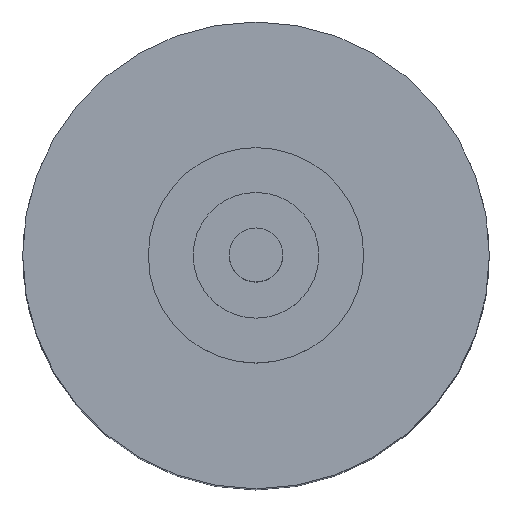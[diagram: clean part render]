
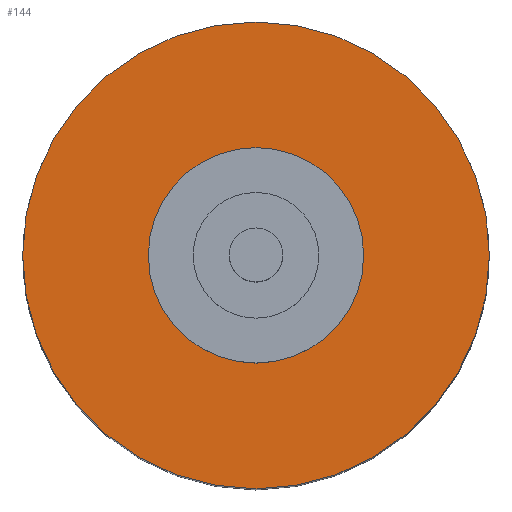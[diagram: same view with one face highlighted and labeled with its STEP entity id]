
A CAD part, top view. The second image highlights one B-rep face of the part: STEP entity #144.
In plain terms, the highlighted planar face has unit normal (0, 0, 1).
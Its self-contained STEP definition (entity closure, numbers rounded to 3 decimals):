
#144=ADVANCED_FACE('',(#217,#218),#188,.T.);
#188=PLANE('',#812);
#217=FACE_BOUND('',#253,.T.);
#218=FACE_BOUND('',#254,.T.);
#253=EDGE_LOOP('',(#371));
#254=EDGE_LOOP('',(#372));
#318=CIRCLE('',#810,6.5);
#319=CIRCLE('',#811,3.);
#371=ORIENTED_EDGE('',*,*,#619,.T.);
#372=ORIENTED_EDGE('',*,*,#620,.F.);
#555=VERTEX_POINT('',#1153);
#556=VERTEX_POINT('',#1155);
#619=EDGE_CURVE('',#555,#555,#318,.T.);
#620=EDGE_CURVE('',#556,#556,#319,.T.);
#810=AXIS2_PLACEMENT_3D('',#1152,#921,#922);
#811=AXIS2_PLACEMENT_3D('',#1154,#923,#924);
#812=AXIS2_PLACEMENT_3D('',#1156,#925,#926);
#921=DIRECTION('',(0.,0.,1.));
#922=DIRECTION('',(1.,0.,0.));
#923=DIRECTION('',(0.,0.,1.));
#924=DIRECTION('',(1.,0.,0.));
#925=DIRECTION('',(0.,0.,1.));
#926=DIRECTION('',(1.,0.,0.));
#1152=CARTESIAN_POINT('',(0.,0.,19.2));
#1153=CARTESIAN_POINT('',(6.5,0.,19.2));
#1154=CARTESIAN_POINT('',(0.,0.,19.2));
#1155=CARTESIAN_POINT('',(3.,0.,19.2));
#1156=CARTESIAN_POINT('',(0.,3.,19.2));
